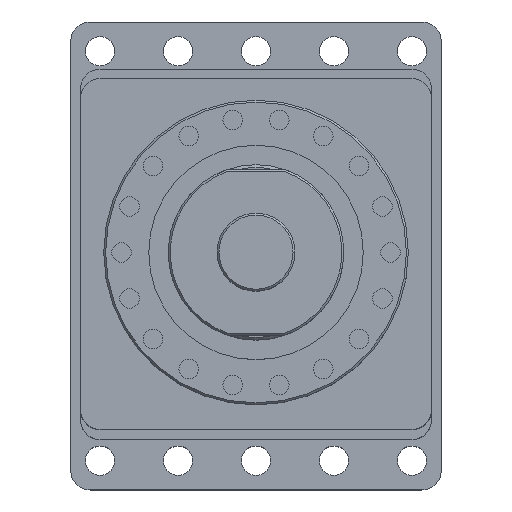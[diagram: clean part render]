
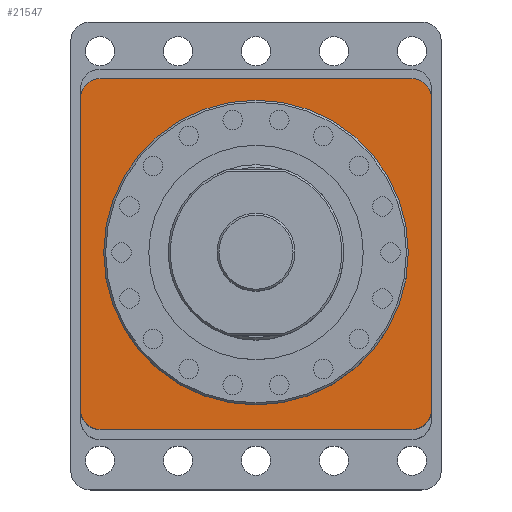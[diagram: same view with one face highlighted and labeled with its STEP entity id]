
A CAD part, top view. The second image highlights one B-rep face of the part: STEP entity #21547.
In plain terms, the highlighted planar face has unit normal (0, 0, 1) as drawn and (1, 0, 0) by its records, which use the part's own axes.
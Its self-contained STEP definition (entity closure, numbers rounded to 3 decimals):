
#223 = CIRCLE ( 'NONE', #20343, 147. ) ;
#420 = VERTEX_POINT ( 'NONE', #17143 ) ;
#629 = FACE_BOUND ( 'NONE', #13353, .T. ) ;
#758 = DIRECTION ( 'NONE',  ( -1., 0., 0. ) ) ;
#1296 = AXIS2_PLACEMENT_3D ( 'NONE', #21989, #26924, #12248 ) ;
#1660 = CARTESIAN_POINT ( 'NONE',  ( 0., 160., 180. ) ) ;
#2059 = DIRECTION ( 'NONE',  ( 0., 0., 1. ) ) ;
#2292 = EDGE_CURVE ( 'NONE', #28019, #5460, #18633, .T. ) ;
#3488 = CARTESIAN_POINT ( 'NONE',  ( 0., -160., 180. ) ) ;
#3615 = DIRECTION ( 'NONE',  ( 0., 1., 0. ) ) ;
#3896 = DIRECTION ( 'NONE',  ( 0., 0., -1. ) ) ;
#4069 = AXIS2_PLACEMENT_3D ( 'NONE', #5613, #7522, #17474 ) ;
#4109 = ORIENTED_EDGE ( 'NONE', *, *, #30009, .F. ) ;
#4299 = EDGE_CURVE ( 'NONE', #5637, #420, #27925, .T. ) ;
#4835 = ORIENTED_EDGE ( 'NONE', *, *, #4299, .F. ) ;
#5151 = AXIS2_PLACEMENT_3D ( 'NONE', #26280, #9518, #24071 ) ;
#5460 = VERTEX_POINT ( 'NONE', #17889 ) ;
#5474 = DIRECTION ( 'NONE',  ( -1., 0., 0. ) ) ;
#5495 = DIRECTION ( 'NONE',  ( 1., 0., 0. ) ) ;
#5613 = CARTESIAN_POINT ( 'NONE',  ( 0., 0., 0. ) ) ;
#5637 = VERTEX_POINT ( 'NONE', #24478 ) ;
#5741 = EDGE_CURVE ( 'NONE', #9819, #29650, #12332, .T. ) ;
#6071 = EDGE_CURVE ( 'NONE', #19785, #15259, #223, .T. ) ;
#6360 = AXIS2_PLACEMENT_3D ( 'NONE', #12755, #5474, #13168 ) ;
#6831 = DIRECTION ( 'NONE',  ( 0., 1., 0. ) ) ;
#7172 = CIRCLE ( 'NONE', #1296, 20. ) ;
#7347 = ORIENTED_EDGE ( 'NONE', *, *, #29297, .F. ) ;
#7522 = DIRECTION ( 'NONE',  ( 1., 0., 0. ) ) ;
#9518 = DIRECTION ( 'NONE',  ( -1., 0., 0. ) ) ;
#9819 = VERTEX_POINT ( 'NONE', #1660 ) ;
#10744 = CARTESIAN_POINT ( 'NONE',  ( 0., 160., 180. ) ) ;
#10756 = CARTESIAN_POINT ( 'NONE',  ( 0., 160., -180. ) ) ;
#11055 = AXIS2_PLACEMENT_3D ( 'NONE', #22815, #758, #3615 ) ;
#11205 = ORIENTED_EDGE ( 'NONE', *, *, #27584, .F. ) ;
#11569 = EDGE_LOOP ( 'NONE', ( #19017, #15056, #11205, #20507, #23742, #4109, #7347, #4835 ) ) ;
#11584 = EDGE_CURVE ( 'NONE', #5460, #5637, #19169, .T. ) ;
#11667 = CARTESIAN_POINT ( 'NONE',  ( 0., 180., -160. ) ) ;
#11720 = LINE ( 'NONE', #28053, #20070 ) ;
#12248 = DIRECTION ( 'NONE',  ( 0., 1., 0. ) ) ;
#12332 = CIRCLE ( 'NONE', #6360, 20. ) ;
#12421 = VECTOR ( 'NONE', #2059, 1000. ) ;
#12755 = CARTESIAN_POINT ( 'NONE',  ( 0., 160., 160. ) ) ;
#13168 = DIRECTION ( 'NONE',  ( 0., -1., 0. ) ) ;
#13353 = EDGE_LOOP ( 'NONE', ( #18285, #22231 ) ) ;
#13420 = CARTESIAN_POINT ( 'NONE',  ( 0., 147., 0. ) ) ;
#15056 = ORIENTED_EDGE ( 'NONE', *, *, #2292, .F. ) ;
#15259 = VERTEX_POINT ( 'NONE', #13420 ) ;
#15684 = EDGE_CURVE ( 'NONE', #29650, #21046, #11720, .T. ) ;
#15762 = FACE_OUTER_BOUND ( 'NONE', #11569, .T. ) ;
#15780 = CARTESIAN_POINT ( 'NONE',  ( 0., -147., 0. ) ) ;
#15957 = VECTOR ( 'NONE', #31288, 1000. ) ;
#16318 = EDGE_CURVE ( 'NONE', #15259, #19785, #17014, .T. ) ;
#16665 = CARTESIAN_POINT ( 'NONE',  ( 0., -180., -160. ) ) ;
#17014 = CIRCLE ( 'NONE', #4069, 147. ) ;
#17143 = CARTESIAN_POINT ( 'NONE',  ( 0., -180., 160. ) ) ;
#17474 = DIRECTION ( 'NONE',  ( 0., 1., 0. ) ) ;
#17889 = CARTESIAN_POINT ( 'NONE',  ( 0., -160., -180. ) ) ;
#18285 = ORIENTED_EDGE ( 'NONE', *, *, #16318, .F. ) ;
#18633 = LINE ( 'NONE', #21378, #15957 ) ;
#18903 = CARTESIAN_POINT ( 'NONE',  ( 0., 0., 0. ) ) ;
#18980 = AXIS2_PLACEMENT_3D ( 'NONE', #22500, #5495, #29680 ) ;
#19017 = ORIENTED_EDGE ( 'NONE', *, *, #11584, .F. ) ;
#19169 = CIRCLE ( 'NONE', #11055, 20. ) ;
#19785 = VERTEX_POINT ( 'NONE', #15780 ) ;
#20070 = VECTOR ( 'NONE', #3896, 1000. ) ;
#20343 = AXIS2_PLACEMENT_3D ( 'NONE', #18903, #21290, #6831 ) ;
#20507 = ORIENTED_EDGE ( 'NONE', *, *, #15684, .F. ) ;
#21046 = VERTEX_POINT ( 'NONE', #11667 ) ;
#21290 = DIRECTION ( 'NONE',  ( 1., 0., 0. ) ) ;
#21378 = CARTESIAN_POINT ( 'NONE',  ( 0., 160., -180. ) ) ;
#21547 = ADVANCED_FACE ( 'NONE', ( #629, #15762 ), #29576, .T. ) ;
#21989 = CARTESIAN_POINT ( 'NONE',  ( 0., -160., 160. ) ) ;
#22231 = ORIENTED_EDGE ( 'NONE', *, *, #6071, .F. ) ;
#22390 = CIRCLE ( 'NONE', #5151, 20. ) ;
#22500 = CARTESIAN_POINT ( 'NONE',  ( 0., -160., -160. ) ) ;
#22815 = CARTESIAN_POINT ( 'NONE',  ( 0., -160., -160. ) ) ;
#22984 = VECTOR ( 'NONE', #27629, 1000. ) ;
#23356 = VERTEX_POINT ( 'NONE', #3488 ) ;
#23742 = ORIENTED_EDGE ( 'NONE', *, *, #5741, .F. ) ;
#24071 = DIRECTION ( 'NONE',  ( 0., -1., 0. ) ) ;
#24478 = CARTESIAN_POINT ( 'NONE',  ( 0., -180., -160. ) ) ;
#26280 = CARTESIAN_POINT ( 'NONE',  ( 0., 160., -160. ) ) ;
#26924 = DIRECTION ( 'NONE',  ( -1., 0., 0. ) ) ;
#27584 = EDGE_CURVE ( 'NONE', #21046, #28019, #22390, .T. ) ;
#27629 = DIRECTION ( 'NONE',  ( 0., 1., 0. ) ) ;
#27885 = CARTESIAN_POINT ( 'NONE',  ( 0., 180., 160. ) ) ;
#27925 = LINE ( 'NONE', #16665, #12421 ) ;
#28019 = VERTEX_POINT ( 'NONE', #10756 ) ;
#28053 = CARTESIAN_POINT ( 'NONE',  ( 0., 180., -160. ) ) ;
#29297 = EDGE_CURVE ( 'NONE', #420, #23356, #7172, .T. ) ;
#29576 = PLANE ( 'NONE',  #18980 ) ;
#29650 = VERTEX_POINT ( 'NONE', #27885 ) ;
#29680 = DIRECTION ( 'NONE',  ( 0., 1., 0. ) ) ;
#30009 = EDGE_CURVE ( 'NONE', #23356, #9819, #30915, .T. ) ;
#30915 = LINE ( 'NONE', #10744, #22984 ) ;
#31288 = DIRECTION ( 'NONE',  ( 0., -1., 0. ) ) ;
